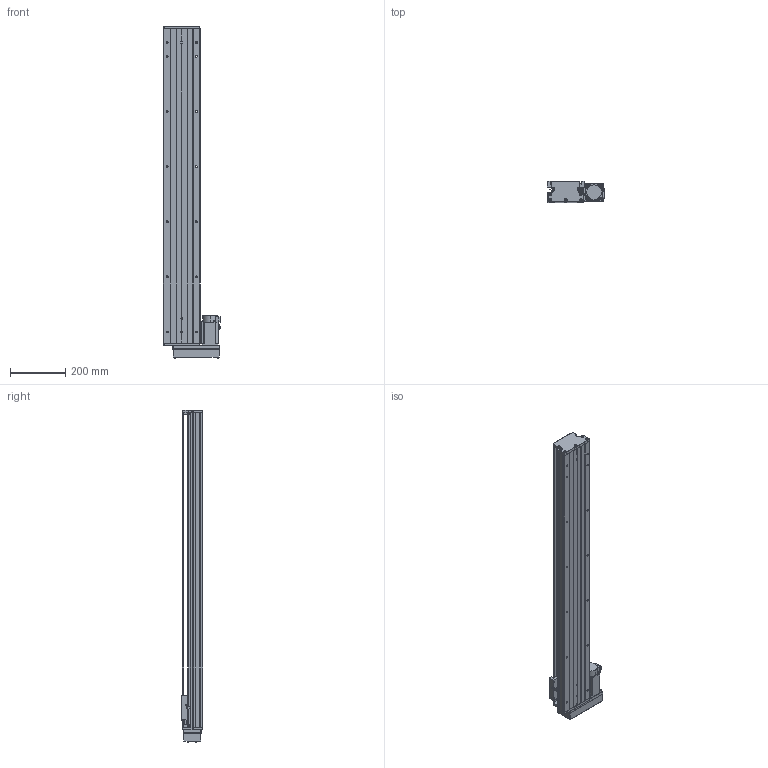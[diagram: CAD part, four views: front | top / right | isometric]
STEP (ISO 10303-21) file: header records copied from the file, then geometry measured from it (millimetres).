
FILE_DESCRIPTION (( 'STEP AP203' ), '1' );
FILE_NAME ('KTH130-1000-BR-M40-C4.step', '2023-06-30T04:10:08', ( '微软用户' ), ( '微软中国' ), 'SwSTEP 2.0', 'SolidWorks 2020', '' );
FILE_SCHEMA (( 'CONFIG_CONTROL_DESIGN' ));
Length unit declared in the file: millimetre
Products named in the file (19): HG-KN43J-S100; KTH130-002_KTH130-002; EE_SX911P_R; GBT 70.2-M4¡Á35_M4¡Á35; KTH130-004; CTHA60-016; GTH14-015-2_CTHA86-015-2; KTH130-005; GBT 70.1-M3℅5; GTH14-033; GB1155-6X6; GBT77-2000 M3×3; KTH130-1000-BR-M40-C4; GBT70.1 M5℅16; す晦芛蹟隊 M3℅5; GBT 70.2-M3¡Á5_M3¡Á6; GBT 70.3-M3℅8; GTH14-001_1000; CTHA60-017
Assembly tree (53 placements, depth 2):
  KTH130-1000-BR-M40-C4
    GTH14-001_1000
    KTH130-002_KTH130-002
    KTH130-004
    KTH130-005
    GB1155-6X6  x2
    GBT70.1 M5℅16  x10
    GBT 70.2-M3¡Á5_M3¡Á6  x4
    CTHA60-017  x3
    EE_SX911P_R  x3
    CTHA60-016  x2
    GBT 70.1-M3℅5  x6
    GBT77-2000 M3×3  x6
    す晦芛蹟隊 M3℅5  x2
    GBT 70.3-M3℅8  x4
    HG-KN43J-S100
    GBT 70.2-M4¡Á35_M4¡Á35  x4
    GTH14-015-2_CTHA86-015-2
    GTH14-033
Bounding box: 209.3 x 78 x 1204.2 mm (x, y, z)
Volume: 6687037 mm3; surface area: 1056669.8 mm2
Topology: 56 solids, 56 shells, 2243 faces, 5414 edges, 3374 vertices
Faces by surface type: plane 1201, cylinder 628, cone 290, torus 100, sphere 24
Entity records: 41174 total; most frequent: CARTESIAN_POINT 8734, DIRECTION 6159, ORIENTED_EDGE 6028, EDGE_CURVE 3014, AXIS2_PLACEMENT_3D 2130, VERTEX_POINT 1927, LINE 1899, VECTOR 1899
